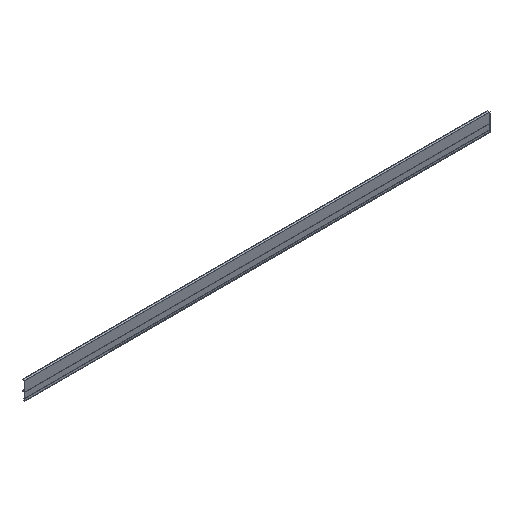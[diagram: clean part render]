
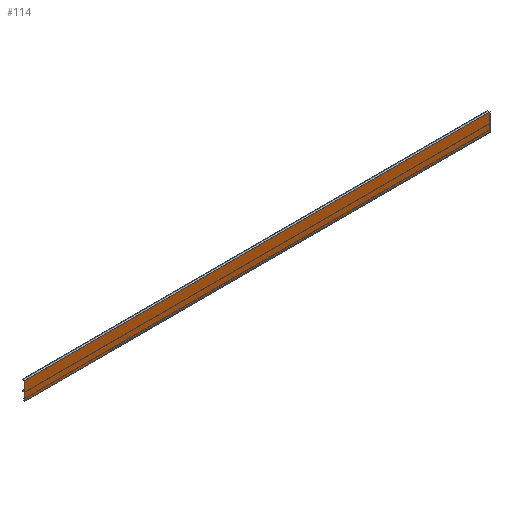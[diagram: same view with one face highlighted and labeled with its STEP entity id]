
A CAD part, isometric view. The second image highlights one B-rep face of the part: STEP entity #114.
In plain terms, the highlighted planar face has unit normal (0, -1, 0).
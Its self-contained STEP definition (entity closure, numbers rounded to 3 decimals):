
#114=ADVANCED_FACE('',(#278),#279,.T.);
#278=FACE_OUTER_BOUND('',#493,.T.);
#279=PLANE('',#494);
#493=EDGE_LOOP('',(#787,#788,#789,#790));
#494=AXIS2_PLACEMENT_3D('',#791,#792,#793);
#787=ORIENTED_EDGE('',*,*,#1376,.T.);
#788=ORIENTED_EDGE('',*,*,#1377,.F.);
#789=ORIENTED_EDGE('',*,*,#1348,.F.);
#790=ORIENTED_EDGE('',*,*,#1378,.T.);
#791=CARTESIAN_POINT('',(0.0,-11.5,0.0));
#792=DIRECTION('',(0.0,-1.0,0.0));
#793=DIRECTION('',(0.0,0.0,-1.0));
#1348=EDGE_CURVE('',#1623,#1625,#1626,.T.);
#1376=EDGE_CURVE('',#1674,#1675,#1676,.T.);
#1377=EDGE_CURVE('',#1625,#1675,#1677,.T.);
#1378=EDGE_CURVE('',#1623,#1674,#1678,.T.);
#1623=VERTEX_POINT('',#2027);
#1625=VERTEX_POINT('',#2030);
#1626=LINE('',#2031,#2032);
#1674=VERTEX_POINT('',#2104);
#1675=VERTEX_POINT('',#2105);
#1676=LINE('',#2106,#2107);
#1677=LINE('',#2108,#2109);
#1678=LINE('',#2110,#2111);
#2027=CARTESIAN_POINT('',(0.0,-11.5,-79.5));
#2030=CARTESIAN_POINT('',(0.0,-11.5,0.0));
#2031=CARTESIAN_POINT('',(0.0,-11.5,-61.0));
#2032=VECTOR('',#2483,1.0);
#2104=CARTESIAN_POINT('',(2050.0,-11.5,-79.5));
#2105=CARTESIAN_POINT('',(2050.0,-11.5,0.0));
#2106=CARTESIAN_POINT('',(2050.0,-11.5,-15.25));
#2107=VECTOR('',#2508,1.0);
#2108=CARTESIAN_POINT('',(0.0,-11.5,0.0));
#2109=VECTOR('',#2509,1.0);
#2110=CARTESIAN_POINT('',(0.0,-11.5,-79.5));
#2111=VECTOR('',#2510,1.0);
#2483=DIRECTION('',(0.0,0.0,1.0));
#2508=DIRECTION('',(0.0,0.0,1.0));
#2509=DIRECTION('',(1.0,0.0,0.0));
#2510=DIRECTION('',(1.0,0.0,0.0));
